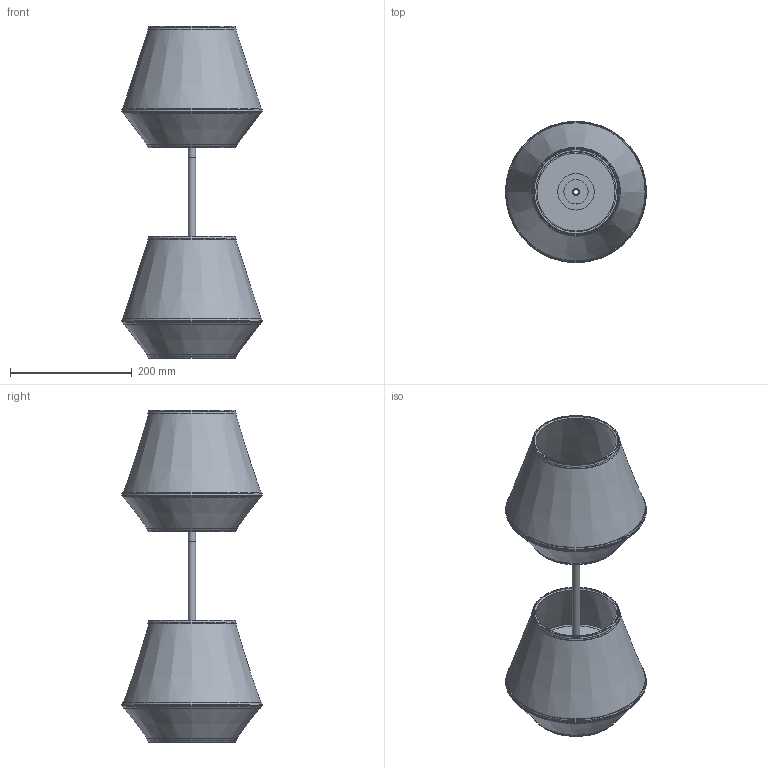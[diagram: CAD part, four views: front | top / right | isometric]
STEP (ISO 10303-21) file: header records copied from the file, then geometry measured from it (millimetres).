
FILE_DESCRIPTION( ( 'STEP AP203' ), '1' );
FILE_NAME( '//srvbf/BF Disegni/SINO/SINO-L Lumetto 3D.stp', '2020-10-15T12:49:49', ( ' ' ), ( ' ' ), 'XStep 1.0', ' ', ' ' );
FILE_SCHEMA( ( 'CONFIG_CONTROL_DESIGN) ( )' ) );
Length unit declared in the file: metre
Products named in the file (11): Assem1; 1; 2; 3; 4; 5; 6; 7; 8; 9; 10
Bounding box: 232 x 232 x 545.46 mm (x, y, z)
Volume: 364134.1 mm3; surface area: 761602.7 mm2
Topology: 20 solids, 20 shells, 92 faces, 156 edges, 100 vertices
Faces by surface type: plane 36, cone 32, cylinder 14, torus 10
Full cylindrical faces by diameter (mm): 8.917 x2, 10 x4, 12 x2, 40 x2, 60 x2, 128 x2
Entity records: 1582 total; most frequent: CARTESIAN_POINT 291, DIRECTION 198, AXIS2_PLACEMENT_3D 99, EDGE_LOOP 88, ORIENTED_EDGE 88, CC_DESIGN_PERSON_AND_ORGANIZATION_ASSIGNMENT 55, FACE_OUTER_BOUND 52, ADVANCED_FACE 46
